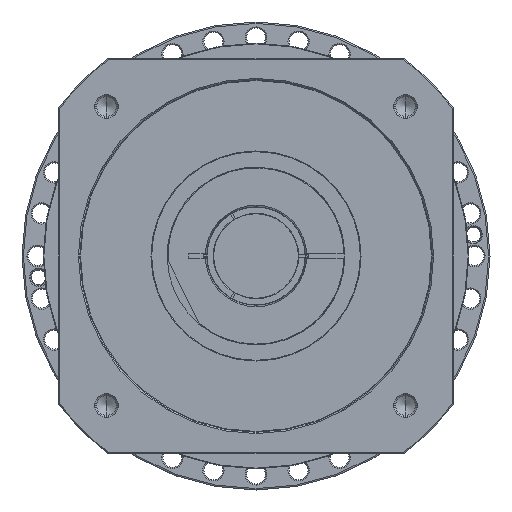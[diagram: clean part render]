
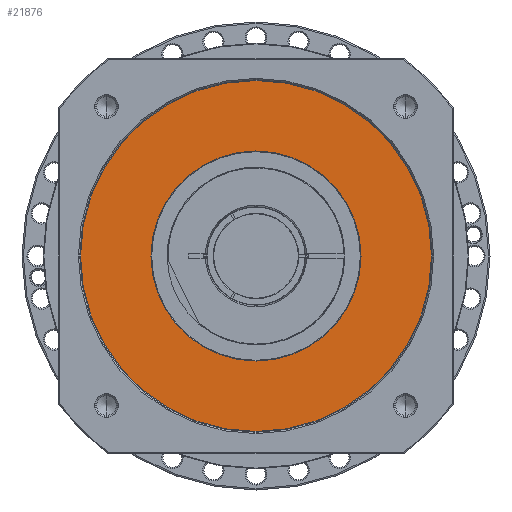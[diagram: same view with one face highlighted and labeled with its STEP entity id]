
A CAD part, left-side view. The second image highlights one B-rep face of the part: STEP entity #21876.
In plain terms, the highlighted planar face has unit normal (-1, 0, 0) as drawn and (0, 0, 1) by its records, which use the part's own axes.
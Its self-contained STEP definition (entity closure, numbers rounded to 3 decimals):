
#20607=CARTESIAN_POINT('',(0.,0.,58.));
#20608=DIRECTION('',(0.,0.,-1.));
#20609=DIRECTION('',(0.,-1.,0.));
#20610=AXIS2_PLACEMENT_3D('',#20607,#20608,#20609);
#20612=CARTESIAN_POINT('',(0.,0.,58.));
#20613=DIRECTION('',(0.,0.,-1.));
#20614=DIRECTION('',(0.,1.,0.));
#20615=AXIS2_PLACEMENT_3D('',#20612,#20613,#20614);
#20617=CARTESIAN_POINT('',(0.,0.,58.));
#20618=DIRECTION('',(0.,0.,-1.));
#20619=DIRECTION('',(1.,0.,0.));
#20620=AXIS2_PLACEMENT_3D('',#20617,#20618,#20619);
#20635=CARTESIAN_POINT('',(0.,0.,58.));
#20636=DIRECTION('',(0.,0.,-1.));
#20637=DIRECTION('',(-1.,0.,0.));
#20638=AXIS2_PLACEMENT_3D('',#20635,#20636,#20637);
#21170=CARTESIAN_POINT('',(0.,-124.5,58.));
#21171=CARTESIAN_POINT('',(0.,124.5,58.));
#21172=VERTEX_POINT('',#21170);
#21173=VERTEX_POINT('',#21171);
#21178=CARTESIAN_POINT('',(-74.5,0.,58.));
#21179=CARTESIAN_POINT('',(74.5,0.,58.));
#21180=VERTEX_POINT('',#21178);
#21181=VERTEX_POINT('',#21179);
#21860=CARTESIAN_POINT('',(0.,0.,58.));
#21861=DIRECTION('',(0.,0.,-1.));
#21862=DIRECTION('',(0.,-1.,0.));
#21863=AXIS2_PLACEMENT_3D('',#21860,#21861,#21862);
#21864=PLANE('',#21863);
#21866=ORIENTED_EDGE('',*,*,#21865,.T.);
#21867=ORIENTED_EDGE('',*,*,#21850,.T.);
#21868=EDGE_LOOP('',(#21866,#21867));
#21869=FACE_OUTER_BOUND('',#21868,.F.);
#21871=ORIENTED_EDGE('',*,*,#21870,.F.);
#21873=ORIENTED_EDGE('',*,*,#21872,.F.);
#21874=EDGE_LOOP('',(#21871,#21873));
#21875=FACE_BOUND('',#21874,.F.);
#21876=ADVANCED_FACE('',(#21869,#21875),#21864,.F.);
#20611=CIRCLE('',#20610,124.5);
#20616=CIRCLE('',#20615,124.5);
#20621=CIRCLE('',#20620,74.5);
#20639=CIRCLE('',#20638,74.5);
#21850=EDGE_CURVE('',#21173,#21172,#20616,.T.);
#21865=EDGE_CURVE('',#21172,#21173,#20611,.T.);
#21870=EDGE_CURVE('',#21181,#21180,#20621,.T.);
#21872=EDGE_CURVE('',#21180,#21181,#20639,.T.);
